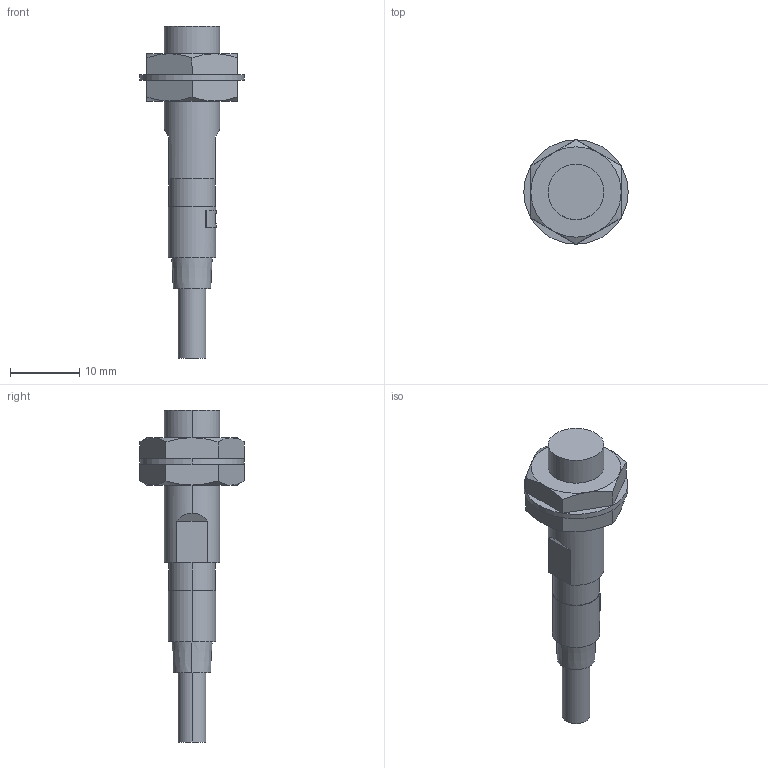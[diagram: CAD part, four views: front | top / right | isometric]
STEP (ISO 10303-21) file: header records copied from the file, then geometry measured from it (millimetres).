
FILE_DESCRIPTION (( 'STEP AP214' ), '1' );
FILE_NAME ('E2E_X1R5C18_2M.step', '2019-01-26T14:49:55', ( 'OSMC1.0 ' ), ( ' ' ), 'SwSTEP 2.0', 'SolidWorks 2002025', '' );
FILE_SCHEMA (( 'AUTOMOTIVE_DESIGN' ));
Length unit declared in the file: millimetre
Products named in the file (4): E2E_X1R5C18_2M; E2E_X1R5C18_2M_BASE; E2E_X1R5C18_2M_TOOHTED_WASHER; E2E_X1R5C18_2M_CLAMPING_NUT
Assembly tree (4 placements, depth 2):
  E2E_X1R5C18_2M
    E2E_X1R5C18_2M_BASE
    E2E_X1R5C18_2M_CLAMPING_NUT  x2
    E2E_X1R5C18_2M_TOOHTED_WASHER
Bounding box: 15 x 15.01 x 47.8 mm (x, y, z)
Volume: 2391.1 mm3; surface area: 2187.8 mm2
Topology: 4 solids, 4 shells, 71 faces, 164 edges, 104 vertices
Faces by surface type: plane 37, cylinder 20, cone 14
Entity records: 1999 total; most frequent: CARTESIAN_POINT 352, DIRECTION 290, ORIENTED_EDGE 256, EDGE_CURVE 128, AXIS2_PLACEMENT_3D 116, VERTEX_POINT 82, EDGE_LOOP 62, LINE 58
